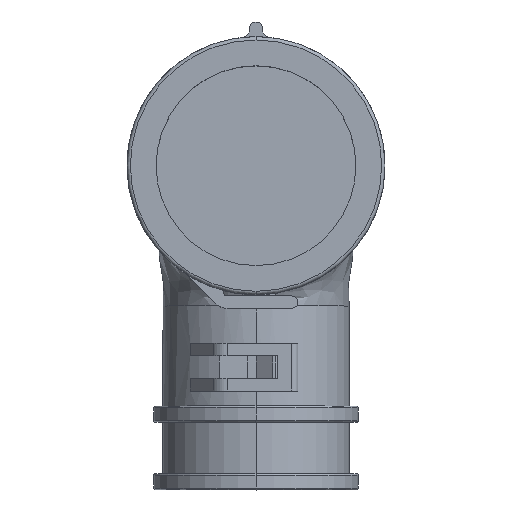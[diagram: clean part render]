
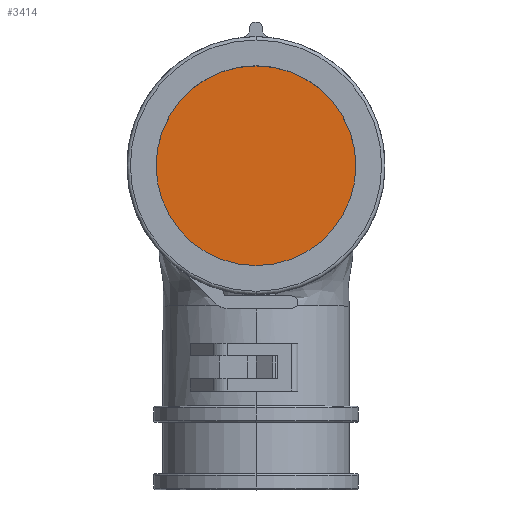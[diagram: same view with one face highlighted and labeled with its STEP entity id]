
A CAD part, top view. The second image highlights one B-rep face of the part: STEP entity #3414.
In plain terms, the highlighted planar face has unit normal (0, 0, 1).
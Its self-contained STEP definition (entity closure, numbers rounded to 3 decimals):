
#208=CARTESIAN_POINT('',(0.,0.,-15.884));
#209=DIRECTION('',(0.,0.,1.));
#210=DIRECTION('',(0.,1.,0.));
#211=AXIS2_PLACEMENT_3D('',#208,#209,#210);
#213=CARTESIAN_POINT('',(0.,0.,-15.884));
#214=DIRECTION('',(0.,0.,-1.));
#215=DIRECTION('',(0.,1.,0.));
#216=AXIS2_PLACEMENT_3D('',#213,#214,#215);
#2658=CARTESIAN_POINT('',(0.,15.494,-15.884));
#2660=VERTEX_POINT('',#2658);
#2670=CARTESIAN_POINT('',(0.,-15.494,-15.884));
#2672=VERTEX_POINT('',#2670);
#3405=CARTESIAN_POINT('',(0.,0.,-15.884));
#3406=DIRECTION('',(0.,0.,-1.));
#3407=DIRECTION('',(0.,-1.,0.));
#3408=AXIS2_PLACEMENT_3D('',#3405,#3406,#3407);
#3409=PLANE('',#3408);
#3410=ORIENTED_EDGE('',*,*,#3398,.F.);
#3411=ORIENTED_EDGE('',*,*,#3387,.T.);
#3412=EDGE_LOOP('',(#3410,#3411));
#3413=FACE_OUTER_BOUND('',#3412,.F.);
#212=CIRCLE('',#211,15.494);
#217=CIRCLE('',#216,15.494);
#3387=EDGE_CURVE('',#2660,#2672,#217,.T.);
#3398=EDGE_CURVE('',#2660,#2672,#212,.T.);
#3414=ADVANCED_FACE('',(#3413),#3409,.F.);
